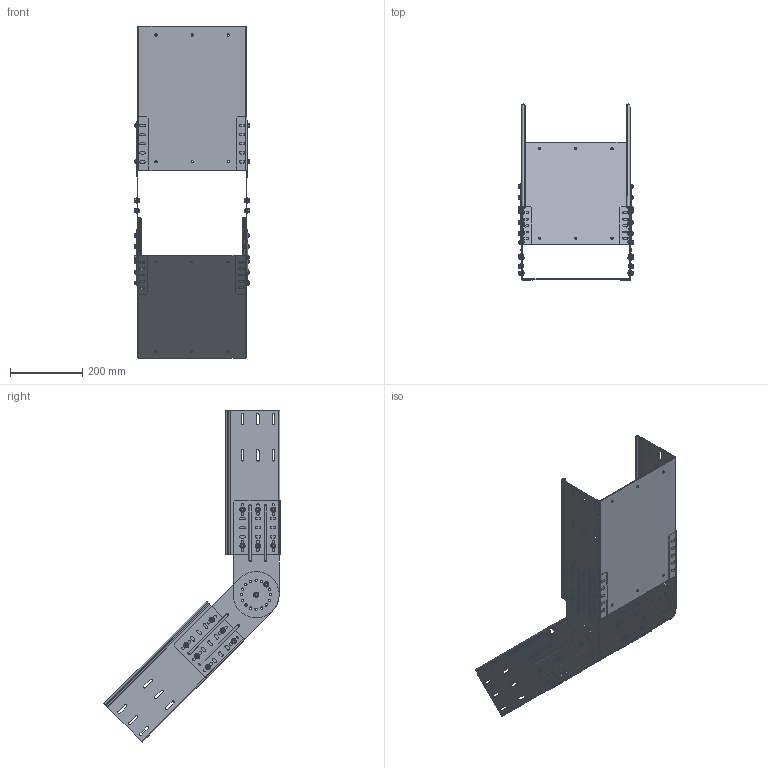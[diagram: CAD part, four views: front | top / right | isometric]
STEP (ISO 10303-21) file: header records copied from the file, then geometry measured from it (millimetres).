
FILE_DESCRIPTION (( 'STEP AP214' ), '1' );
FILE_NAME ('ﾑﾋﾓﾘ+ﾓﾋ(ﾍ)_150.STEP', '2016-10-06T20:58:42', ( '' ), ( '' ), 'SwSTEP 2.0', 'SolidWorks 2016', '' );
FILE_SCHEMA (( 'AUTOMOTIVE_DESIGN' ));
Length unit declared in the file: millimetre
Products named in the file (6): hex flange nut_din_Hexagon Flange Nut DIN 6923 - M6 - N; 捀衯_50_谾謤_150; ﾑﾋﾓﾘ+ﾓﾋ(ﾍ)_150; ÓË(Í)-300õÍõ550_3000.1,5.300.150; 083815-083830 捀衯  蚎_150; pan head cross recess screw_din_ISO 7045 - M6 x 10 - Z --- 10N
Assembly tree (62 placements, depth 2):
  ﾑﾋﾓﾘ+ﾓﾋ(ﾍ)_150
    ÓË(Í)-300õÍõ550_3000.1,5.300.150  x2
    083815-083830 捀衯  蚎_150  x2
    捀衯_50_谾謤_150  x2
    pan head cross recess screw_din_ISO 7045 - M6 x 10 - Z --- 10N  x28
    hex flange nut_din_Hexagon Flange Nut DIN 6923 - M6 - N  x28
Bounding box: 319 x 486.8 x 916.76 mm (x, y, z)
Volume: 927847.1 mm3; surface area: 1359016.3 mm2
Topology: 62 solids, 62 shells, 2904 faces, 7252 edges, 4428 vertices
Faces by surface type: plane 1136, cylinder 792, cone 504, torus 216, bspline 168, sphere 88
Entity records: 19970 total; most frequent: CARTESIAN_POINT 3572, DIRECTION 3550, ORIENTED_EDGE 3180, EDGE_CURVE 1590, AXIS2_PLACEMENT_3D 1347, VERTEX_POINT 1015, VECTOR 856, LINE 856
